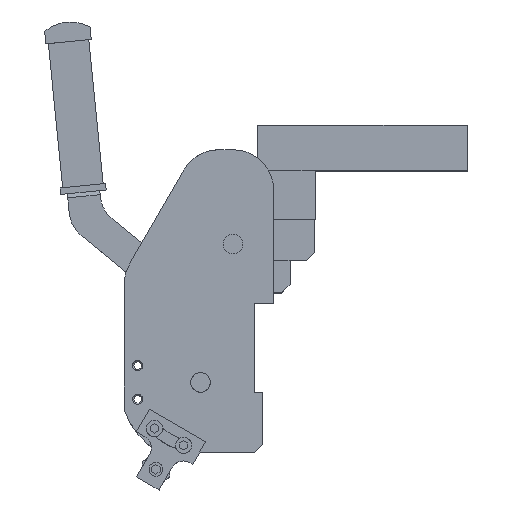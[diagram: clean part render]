
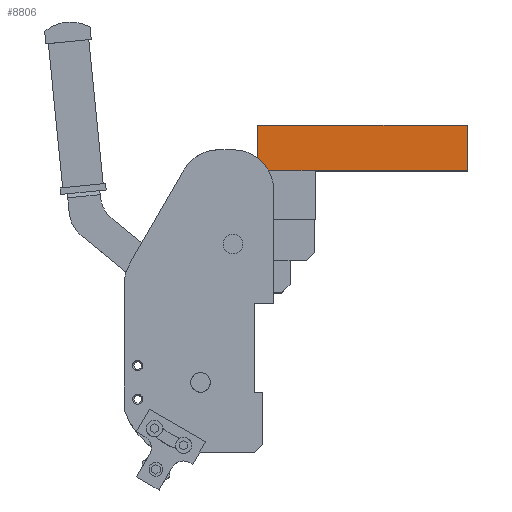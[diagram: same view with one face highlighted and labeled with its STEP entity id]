
A CAD part, top view. The second image highlights one B-rep face of the part: STEP entity #8806.
In plain terms, the highlighted planar face has unit normal (0, 0, 1).
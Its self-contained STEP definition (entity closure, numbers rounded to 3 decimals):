
#417 = VECTOR ( 'NONE', #3888, 1000. ) ;
#1313 = ORIENTED_EDGE ( 'NONE', *, *, #7842, .F. ) ;
#2141 = FACE_OUTER_BOUND ( 'NONE', #5664, .T. ) ;
#2150 = ORIENTED_EDGE ( 'NONE', *, *, #3807, .F. ) ;
#2466 = DIRECTION ( 'NONE',  ( 1., 0., 0. ) ) ;
#2467 = CARTESIAN_POINT ( 'NONE',  ( 35.5, 0., 10. ) ) ;
#2780 = VECTOR ( 'NONE', #4417, 1000. ) ;
#3014 = ORIENTED_EDGE ( 'NONE', *, *, #9299, .F. ) ;
#3652 = EDGE_CURVE ( 'NONE', #6970, #7128, #10686, .T. ) ;
#3807 = EDGE_CURVE ( 'NONE', #8023, #6970, #9416, .T. ) ;
#3813 = CARTESIAN_POINT ( 'NONE',  ( 0., 28., 10. ) ) ;
#3888 = DIRECTION ( 'NONE',  ( 0., -1., 0. ) ) ;
#3890 = CARTESIAN_POINT ( 'NONE',  ( 129., 28., 10. ) ) ;
#3907 = LINE ( 'NONE', #3890, #417 ) ;
#3929 = AXIS2_PLACEMENT_3D ( 'NONE', #9260, #8102, #6726 ) ;
#4312 = PLANE ( 'NONE',  #3929 ) ;
#4417 = DIRECTION ( 'NONE',  ( -1., 0., 0. ) ) ;
#4429 = CARTESIAN_POINT ( 'NONE',  ( 129., 0., 10. ) ) ;
#4432 = LINE ( 'NONE', #4429, #2780 ) ;
#4467 = VECTOR ( 'NONE', #2466, 1000. ) ;
#5135 = LINE ( 'NONE', #3813, #4467 ) ;
#5516 = CARTESIAN_POINT ( 'NONE',  ( 0., 28., 10. ) ) ;
#5664 = EDGE_LOOP ( 'NONE', ( #1313, #3014, #6601, #8714, #2150, #12016 ) ) ;
#5923 = CARTESIAN_POINT ( 'NONE',  ( 129., 28., 10. ) ) ;
#6501 = DIRECTION ( 'NONE',  ( 0., -1., 0. ) ) ;
#6503 = CARTESIAN_POINT ( 'NONE',  ( 0., 28., 10. ) ) ;
#6586 = LINE ( 'NONE', #6503, #7466 ) ;
#6601 = ORIENTED_EDGE ( 'NONE', *, *, #7554, .T. ) ;
#6726 = DIRECTION ( 'NONE',  ( 1., 0., 0. ) ) ;
#6970 = VERTEX_POINT ( 'NONE', #10608 ) ;
#7128 = VERTEX_POINT ( 'NONE', #10048 ) ;
#7378 = VERTEX_POINT ( 'NONE', #8034 ) ;
#7466 = VECTOR ( 'NONE', #6501, 1000. ) ;
#7486 = VECTOR ( 'NONE', #9358, 1000. ) ;
#7554 = EDGE_CURVE ( 'NONE', #7666, #7128, #6586, .T. ) ;
#7613 = VERTEX_POINT ( 'NONE', #5923 ) ;
#7666 = VERTEX_POINT ( 'NONE', #5516 ) ;
#7778 = EDGE_CURVE ( 'NONE', #7378, #8023, #4432, .T. ) ;
#7842 = EDGE_CURVE ( 'NONE', #7613, #7378, #3907, .T. ) ;
#8023 = VERTEX_POINT ( 'NONE', #2467 ) ;
#8034 = CARTESIAN_POINT ( 'NONE',  ( 129., 0., 10. ) ) ;
#8102 = DIRECTION ( 'NONE',  ( 0., 0., 1. ) ) ;
#8714 = ORIENTED_EDGE ( 'NONE', *, *, #3652, .F. ) ;
#8806 = ADVANCED_FACE ( 'NONE', ( #2141 ), #4312, .T. ) ;
#9260 = CARTESIAN_POINT ( 'NONE',  ( 129., 28., 10. ) ) ;
#9299 = EDGE_CURVE ( 'NONE', #7666, #7613, #5135, .T. ) ;
#9358 = DIRECTION ( 'NONE',  ( -1., 0., 0. ) ) ;
#9415 = CARTESIAN_POINT ( 'NONE',  ( 129., 0., 10. ) ) ;
#9416 = LINE ( 'NONE', #9415, #7486 ) ;
#10048 = CARTESIAN_POINT ( 'NONE',  ( 0., 0., 10. ) ) ;
#10608 = CARTESIAN_POINT ( 'NONE',  ( 0.5, 0., 10. ) ) ;
#10626 = DIRECTION ( 'NONE',  ( -1., 0., 0. ) ) ;
#10629 = CARTESIAN_POINT ( 'NONE',  ( 129., 0., 10. ) ) ;
#10686 = LINE ( 'NONE', #10629, #11386 ) ;
#11386 = VECTOR ( 'NONE', #10626, 1000. ) ;
#12016 = ORIENTED_EDGE ( 'NONE', *, *, #7778, .F. ) ;
